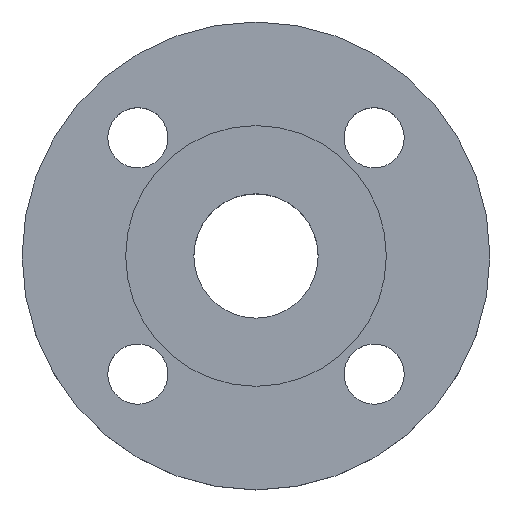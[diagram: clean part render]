
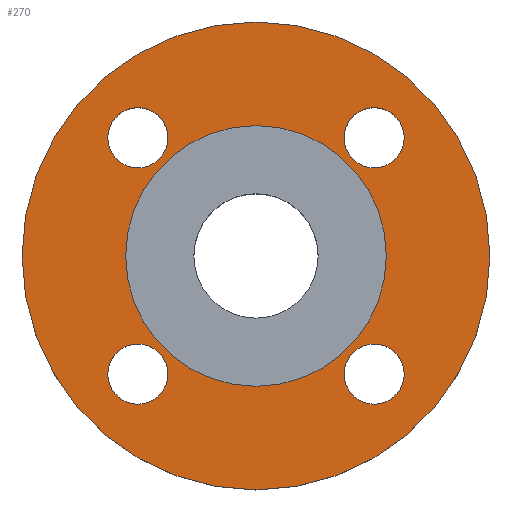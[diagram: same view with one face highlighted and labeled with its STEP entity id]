
A CAD part, top view. The second image highlights one B-rep face of the part: STEP entity #270.
In plain terms, the highlighted planar face has unit normal (0, 0, 1).
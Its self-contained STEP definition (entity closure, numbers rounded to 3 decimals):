
#2 = CARTESIAN_POINT ( 'NONE',  ( 0., 0., 0. ) ) ;
#4 = AXIS2_PLACEMENT_3D ( 'NONE', #448, #708, #99 ) ;
#9 = EDGE_CURVE ( 'NONE', #660, #604, #797, .T. ) ;
#28 = CIRCLE ( 'NONE', #532, 9. ) ;
#34 = DIRECTION ( 'NONE',  ( 1., 0., 0. ) ) ;
#37 = CARTESIAN_POINT ( 'NONE',  ( 44.355, 35.355, 0. ) ) ;
#44 = DIRECTION ( 'NONE',  ( -1., 0., 0. ) ) ;
#53 = VERTEX_POINT ( 'NONE', #498 ) ;
#56 = EDGE_CURVE ( 'NONE', #67, #131, #657, .T. ) ;
#57 = DIRECTION ( 'NONE',  ( 1., 0., 0. ) ) ;
#67 = VERTEX_POINT ( 'NONE', #564 ) ;
#70 = FACE_BOUND ( 'NONE', #174, .T. ) ;
#75 = CIRCLE ( 'NONE', #688, 9. ) ;
#77 = AXIS2_PLACEMENT_3D ( 'NONE', #522, #775, #181 ) ;
#81 = DIRECTION ( 'NONE',  ( 0., 0., -1. ) ) ;
#99 = DIRECTION ( 'NONE',  ( -1., 0., 0. ) ) ;
#100 = ORIENTED_EDGE ( 'NONE', *, *, #273, .F. ) ;
#102 = CARTESIAN_POINT ( 'NONE',  ( -26.355, -35.355, 0. ) ) ;
#110 = DIRECTION ( 'NONE',  ( -1., 0., 0. ) ) ;
#119 = EDGE_CURVE ( 'NONE', #131, #67, #475, .T. ) ;
#129 = AXIS2_PLACEMENT_3D ( 'NONE', #810, #221, #497 ) ;
#130 = EDGE_LOOP ( 'NONE', ( #787, #477 ) ) ;
#131 = VERTEX_POINT ( 'NONE', #326 ) ;
#132 = CIRCLE ( 'NONE', #627, 9. ) ;
#142 = FACE_BOUND ( 'NONE', #764, .T. ) ;
#145 = EDGE_CURVE ( 'NONE', #53, #547, #734, .T. ) ;
#148 = ORIENTED_EDGE ( 'NONE', *, *, #488, .T. ) ;
#153 = DIRECTION ( 'NONE',  ( 0., 0., -1. ) ) ;
#158 = EDGE_CURVE ( 'NONE', #731, #610, #75, .T. ) ;
#164 = CIRCLE ( 'NONE', #281, 70. ) ;
#174 = EDGE_LOOP ( 'NONE', ( #347, #100 ) ) ;
#175 = AXIS2_PLACEMENT_3D ( 'NONE', #2, #284, #553 ) ;
#181 = DIRECTION ( 'NONE',  ( -1., 0., 0. ) ) ;
#191 = DIRECTION ( 'NONE',  ( -1., 0., 0. ) ) ;
#217 = DIRECTION ( 'NONE',  ( 0., 0., 1. ) ) ;
#221 = DIRECTION ( 'NONE',  ( 0., 0., 1. ) ) ;
#228 = DIRECTION ( 'NONE',  ( -1., 0., 0. ) ) ;
#235 = CARTESIAN_POINT ( 'NONE',  ( -70., 0., 0. ) ) ;
#240 = CARTESIAN_POINT ( 'NONE',  ( 26.355, 35.355, 0. ) ) ;
#270 = ADVANCED_FACE ( 'NONE', ( #748, #142, #426, #685, #70, #357 ), #614, .T. ) ;
#273 = EDGE_CURVE ( 'NONE', #604, #660, #671, .T. ) ;
#277 = VERTEX_POINT ( 'NONE', #619 ) ;
#280 = AXIS2_PLACEMENT_3D ( 'NONE', #754, #153, #433 ) ;
#281 = AXIS2_PLACEMENT_3D ( 'NONE', #386, #646, #34 ) ;
#284 = DIRECTION ( 'NONE',  ( 0., 0., 1. ) ) ;
#285 = EDGE_CURVE ( 'NONE', #277, #573, #520, .T. ) ;
#289 = AXIS2_PLACEMENT_3D ( 'NONE', #806, #217, #492 ) ;
#299 = EDGE_CURVE ( 'NONE', #494, #860, #739, .T. ) ;
#314 = EDGE_CURVE ( 'NONE', #610, #731, #28, .T. ) ;
#326 = CARTESIAN_POINT ( 'NONE',  ( -26.355, 35.355, 0. ) ) ;
#347 = ORIENTED_EDGE ( 'NONE', *, *, #9, .F. ) ;
#357 = FACE_OUTER_BOUND ( 'NONE', #605, .T. ) ;
#366 = AXIS2_PLACEMENT_3D ( 'NONE', #693, #81, #367 ) ;
#367 = DIRECTION ( 'NONE',  ( -1., 0., 0. ) ) ;
#386 = CARTESIAN_POINT ( 'NONE',  ( 0., 0., 0. ) ) ;
#387 = CARTESIAN_POINT ( 'NONE',  ( 28.5, 0., 0. ) ) ;
#399 = CARTESIAN_POINT ( 'NONE',  ( 35.355, -35.355, 0. ) ) ;
#409 = CIRCLE ( 'NONE', #4, 9. ) ;
#410 = CARTESIAN_POINT ( 'NONE',  ( 0., 0., 0. ) ) ;
#422 = ORIENTED_EDGE ( 'NONE', *, *, #862, .T. ) ;
#426 = FACE_BOUND ( 'NONE', #130, .T. ) ;
#433 = DIRECTION ( 'NONE',  ( -1., 0., 0. ) ) ;
#440 = AXIS2_PLACEMENT_3D ( 'NONE', #410, #670, #57 ) ;
#448 = CARTESIAN_POINT ( 'NONE',  ( 35.355, -35.355, 0. ) ) ;
#459 = CARTESIAN_POINT ( 'NONE',  ( -35.355, -35.355, 0. ) ) ;
#475 = CIRCLE ( 'NONE', #77, 9. ) ;
#477 = ORIENTED_EDGE ( 'NONE', *, *, #56, .T. ) ;
#484 = EDGE_LOOP ( 'NONE', ( #713, #844 ) ) ;
#485 = ORIENTED_EDGE ( 'NONE', *, *, #717, .T. ) ;
#488 = EDGE_CURVE ( 'NONE', #547, #53, #409, .T. ) ;
#492 = DIRECTION ( 'NONE',  ( 1., 0., 0. ) ) ;
#494 = VERTEX_POINT ( 'NONE', #630 ) ;
#497 = DIRECTION ( 'NONE',  ( 1., 0., 0. ) ) ;
#498 = CARTESIAN_POINT ( 'NONE',  ( 26.355, -35.355, 0. ) ) ;
#520 = CIRCLE ( 'NONE', #129, 70. ) ;
#522 = CARTESIAN_POINT ( 'NONE',  ( -35.355, 35.355, 0. ) ) ;
#531 = CARTESIAN_POINT ( 'NONE',  ( 35.355, 35.355, 0. ) ) ;
#532 = AXIS2_PLACEMENT_3D ( 'NONE', #563, #816, #228 ) ;
#533 = ORIENTED_EDGE ( 'NONE', *, *, #299, .T. ) ;
#547 = VERTEX_POINT ( 'NONE', #637 ) ;
#553 = DIRECTION ( 'NONE',  ( 1., 0., 0. ) ) ;
#563 = CARTESIAN_POINT ( 'NONE',  ( 35.355, 35.355, 0. ) ) ;
#564 = CARTESIAN_POINT ( 'NONE',  ( -44.355, 35.355, 0. ) ) ;
#573 = VERTEX_POINT ( 'NONE', #235 ) ;
#604 = VERTEX_POINT ( 'NONE', #643 ) ;
#605 = EDGE_LOOP ( 'NONE', ( #813, #422 ) ) ;
#610 = VERTEX_POINT ( 'NONE', #240 ) ;
#614 = PLANE ( 'NONE',  #175 ) ;
#619 = CARTESIAN_POINT ( 'NONE',  ( 70., 0., 0. ) ) ;
#627 = AXIS2_PLACEMENT_3D ( 'NONE', #459, #718, #110 ) ;
#630 = CARTESIAN_POINT ( 'NONE',  ( -44.355, -35.355, 0. ) ) ;
#637 = CARTESIAN_POINT ( 'NONE',  ( 44.355, -35.355, 0. ) ) ;
#643 = CARTESIAN_POINT ( 'NONE',  ( -28.5, 0., 0. ) ) ;
#646 = DIRECTION ( 'NONE',  ( 0., 0., 1. ) ) ;
#657 = CIRCLE ( 'NONE', #280, 9. ) ;
#658 = DIRECTION ( 'NONE',  ( 0., 0., -1. ) ) ;
#660 = VERTEX_POINT ( 'NONE', #387 ) ;
#670 = DIRECTION ( 'NONE',  ( 0., 0., 1. ) ) ;
#671 = CIRCLE ( 'NONE', #289, 28.5 ) ;
#682 = EDGE_LOOP ( 'NONE', ( #148, #863 ) ) ;
#685 = FACE_BOUND ( 'NONE', #484, .T. ) ;
#688 = AXIS2_PLACEMENT_3D ( 'NONE', #531, #783, #191 ) ;
#693 = CARTESIAN_POINT ( 'NONE',  ( -35.355, -35.355, 0. ) ) ;
#708 = DIRECTION ( 'NONE',  ( 0., 0., -1. ) ) ;
#713 = ORIENTED_EDGE ( 'NONE', *, *, #158, .T. ) ;
#717 = EDGE_CURVE ( 'NONE', #860, #494, #132, .T. ) ;
#718 = DIRECTION ( 'NONE',  ( 0., 0., -1. ) ) ;
#731 = VERTEX_POINT ( 'NONE', #37 ) ;
#734 = CIRCLE ( 'NONE', #833, 9. ) ;
#739 = CIRCLE ( 'NONE', #366, 9. ) ;
#748 = FACE_BOUND ( 'NONE', #682, .T. ) ;
#754 = CARTESIAN_POINT ( 'NONE',  ( -35.355, 35.355, 0. ) ) ;
#764 = EDGE_LOOP ( 'NONE', ( #485, #533 ) ) ;
#775 = DIRECTION ( 'NONE',  ( 0., 0., -1. ) ) ;
#783 = DIRECTION ( 'NONE',  ( 0., 0., -1. ) ) ;
#787 = ORIENTED_EDGE ( 'NONE', *, *, #119, .T. ) ;
#797 = CIRCLE ( 'NONE', #440, 28.5 ) ;
#806 = CARTESIAN_POINT ( 'NONE',  ( 0., 0., 0. ) ) ;
#810 = CARTESIAN_POINT ( 'NONE',  ( 0., 0., 0. ) ) ;
#813 = ORIENTED_EDGE ( 'NONE', *, *, #285, .T. ) ;
#816 = DIRECTION ( 'NONE',  ( 0., 0., -1. ) ) ;
#833 = AXIS2_PLACEMENT_3D ( 'NONE', #399, #658, #44 ) ;
#844 = ORIENTED_EDGE ( 'NONE', *, *, #314, .T. ) ;
#860 = VERTEX_POINT ( 'NONE', #102 ) ;
#862 = EDGE_CURVE ( 'NONE', #573, #277, #164, .T. ) ;
#863 = ORIENTED_EDGE ( 'NONE', *, *, #145, .T. ) ;
